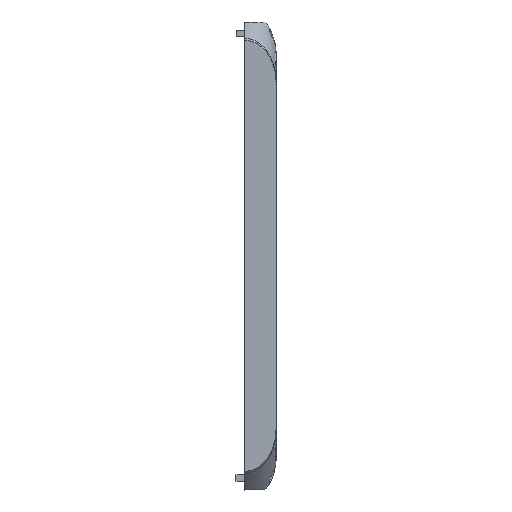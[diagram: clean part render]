
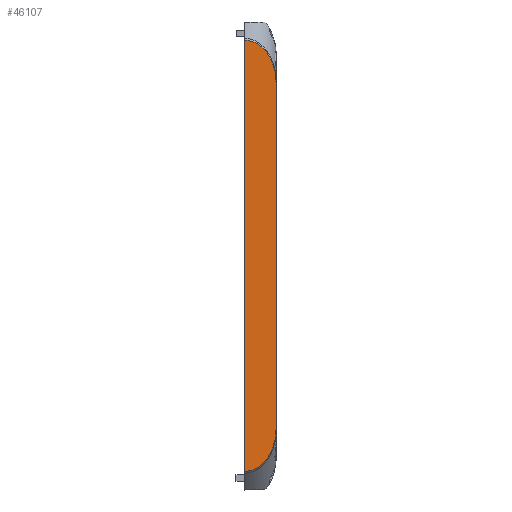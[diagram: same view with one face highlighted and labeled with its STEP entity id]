
A CAD part, top view. The second image highlights one B-rep face of the part: STEP entity #46107.
In plain terms, the highlighted planar face has unit normal (0, 0, 1).
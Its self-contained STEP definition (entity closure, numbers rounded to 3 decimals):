
#16699 = PLANE('',#16700);
#16700 = AXIS2_PLACEMENT_3D('',#16701,#16702,#16703);
#16701 = CARTESIAN_POINT('',(234.431,-103.71,3.136));
#16702 = DIRECTION('',(-1.,0.,0.));
#16703 = DIRECTION('',(0.,0.,1.));
#16881 = PLANE('',#16882);
#16882 = AXIS2_PLACEMENT_3D('',#16883,#16884,#16885);
#16883 = CARTESIAN_POINT('',(241.931,-155.71,26.754));
#16884 = DIRECTION('',(1.,0.,0.));
#16885 = DIRECTION('',(-0.,1.,0.));
#26565 = VERTEX_POINT('',#26566);
#26566 = CARTESIAN_POINT('',(241.931,-62.493,40.018));
#26580 = CYLINDRICAL_SURFACE('',#26581,7.5);
#26581 = AXIS2_PLACEMENT_3D('',#26582,#26583,#26584);
#26582 = CARTESIAN_POINT('',(234.431,-55.303,31.758)
  );
#26583 = DIRECTION('',(0.,0.657,-0.754));
#26584 = DIRECTION('',(0.707,0.533,0.464));
#26592 = EDGE_CURVE('',#26565,#26593,#26595,.T.);
#26593 = VERTEX_POINT('',#26594);
#26594 = CARTESIAN_POINT('',(241.931,-144.927,40.018));
#26595 = SURFACE_CURVE('',#26596,(#26600,#26607),.PCURVE_S1.);
#26596 = LINE('',#26597,#26598);
#26597 = CARTESIAN_POINT('',(241.931,-103.912,40.018));
#26598 = VECTOR('',#26599,1.);
#26599 = DIRECTION('',(0.,-1.,0.));
#26600 = PCURVE('',#16881,#26601);
#26601 = DEFINITIONAL_REPRESENTATION('',(#26602),#26606);
#26602 = LINE('',#26603,#26604);
#26603 = CARTESIAN_POINT('',(51.798,13.264));
#26604 = VECTOR('',#26605,1.);
#26605 = DIRECTION('',(-1.,0.));
#26606 = ( GEOMETRIC_REPRESENTATION_CONTEXT(2) 
PARAMETRIC_REPRESENTATION_CONTEXT() REPRESENTATION_CONTEXT('2D SPACE',''
  ) );
#26607 = PCURVE('',#26608,#26613);
#26608 = PLANE('',#26609);
#26609 = AXIS2_PLACEMENT_3D('',#26610,#26611,#26612);
#26610 = CARTESIAN_POINT('',(241.931,-52.115,40.018));
#26611 = DIRECTION('',(0.,0.,-1.));
#26612 = DIRECTION('',(0.,-1.,0.));
#26613 = DEFINITIONAL_REPRESENTATION('',(#26614),#26618);
#26614 = LINE('',#26615,#26616);
#26615 = CARTESIAN_POINT('',(51.798,0.));
#26616 = VECTOR('',#26617,1.);
#26617 = DIRECTION('',(1.,0.));
#26618 = ( GEOMETRIC_REPRESENTATION_CONTEXT(2) 
PARAMETRIC_REPRESENTATION_CONTEXT() REPRESENTATION_CONTEXT('2D SPACE',''
  ) );
#26636 = CYLINDRICAL_SURFACE('',#26637,7.5);
#26637 = AXIS2_PLACEMENT_3D('',#26638,#26639,#26640);
#26638 = CARTESIAN_POINT('',(234.431,-129.7,57.51)
  );
#26639 = DIRECTION('',(0.,0.657,0.754));
#26640 = DIRECTION('',(0.707,-0.533,0.464));
#38786 = VERTEX_POINT('',#38787);
#38787 = CARTESIAN_POINT('',(234.431,-52.55,40.018));
#38808 = EDGE_CURVE('',#38786,#26565,#38809,.T.);
#38809 = SURFACE_CURVE('',#38810,(#38815,#38844),.PCURVE_S1.);
#38810 = ELLIPSE('',#38811,9.944,7.5);
#38811 = AXIS2_PLACEMENT_3D('',#38812,#38813,#38814);
#38812 = CARTESIAN_POINT('',(234.431,-62.493,40.018));
#38813 = DIRECTION('',(0.,0.,-1.));
#38814 = DIRECTION('',(0.,1.,0.));
#38815 = PCURVE('',#26580,#38816);
#38816 = DEFINITIONAL_REPRESENTATION('',(#38817),#38843);
#38817 = B_SPLINE_CURVE_WITH_KNOTS('',3,(#38818,#38819,#38820,#38821,
    #38822,#38823,#38824,#38825,#38826,#38827,#38828,#38829,#38830,
    #38831,#38832,#38833,#38834,#38835,#38836,#38837,#38838,#38839,
    #38840,#38841,#38842),.UNSPECIFIED.,.F.,.F.,(4,1,1,1,1,1,1,1,1,1,1,1
    ,1,1,1,1,1,1,1,1,1,1,4),(0.,0.071,0.143,
    0.214,0.286,0.357,0.428,
    0.5,0.571,0.643,0.714,
    0.785,0.857,0.928,1.,
    1.071,1.142,1.214,1.285,
    1.357,1.428,1.499,1.571),
  .QUASI_UNIFORM_KNOTS.);
#38818 = CARTESIAN_POINT('',(5.498,-4.422));
#38819 = CARTESIAN_POINT('',(5.522,-4.422));
#38820 = CARTESIAN_POINT('',(5.569,-4.434));
#38821 = CARTESIAN_POINT('',(5.641,-4.483));
#38822 = CARTESIAN_POINT('',(5.712,-4.566));
#38823 = CARTESIAN_POINT('',(5.783,-4.682));
#38824 = CARTESIAN_POINT('',(5.855,-4.829));
#38825 = CARTESIAN_POINT('',(5.926,-5.007));
#38826 = CARTESIAN_POINT('',(5.998,-5.216));
#38827 = CARTESIAN_POINT('',(6.069,-5.454));
#38828 = CARTESIAN_POINT('',(6.14,-5.72));
#38829 = CARTESIAN_POINT('',(6.212,-6.013));
#38830 = CARTESIAN_POINT('',(6.283,-6.331));
#38831 = CARTESIAN_POINT('',(6.355,-6.672));
#38832 = CARTESIAN_POINT('',(6.426,-7.035));
#38833 = CARTESIAN_POINT('',(6.497,-7.418));
#38834 = CARTESIAN_POINT('',(6.569,-7.82));
#38835 = CARTESIAN_POINT('',(6.64,-8.237));
#38836 = CARTESIAN_POINT('',(6.712,-8.668));
#38837 = CARTESIAN_POINT('',(6.783,-9.11));
#38838 = CARTESIAN_POINT('',(6.854,-9.562));
#38839 = CARTESIAN_POINT('',(6.926,-10.021));
#38840 = CARTESIAN_POINT('',(6.997,-10.485));
#38841 = CARTESIAN_POINT('',(7.045,-10.796));
#38842 = CARTESIAN_POINT('',(7.069,-10.951));
#38843 = ( GEOMETRIC_REPRESENTATION_CONTEXT(2) 
PARAMETRIC_REPRESENTATION_CONTEXT() REPRESENTATION_CONTEXT('2D SPACE',''
  ) );
#38844 = PCURVE('',#26608,#38845);
#38845 = DEFINITIONAL_REPRESENTATION('',(#38846),#38850);
#38846 = ELLIPSE('',#38847,9.944,7.5);
#38847 = AXIS2_PLACEMENT_2D('',#38848,#38849);
#38848 = CARTESIAN_POINT('',(10.379,7.5));
#38849 = DIRECTION('',(-1.,0.));
#38850 = ( GEOMETRIC_REPRESENTATION_CONTEXT(2) 
PARAMETRIC_REPRESENTATION_CONTEXT() REPRESENTATION_CONTEXT('2D SPACE',''
  ) );
#41608 = VERTEX_POINT('',#41609);
#41609 = CARTESIAN_POINT('',(234.431,-154.87,40.018));
#41630 = EDGE_CURVE('',#41608,#38786,#41631,.T.);
#41631 = SURFACE_CURVE('',#41632,(#41636,#41643),.PCURVE_S1.);
#41632 = LINE('',#41633,#41634);
#41633 = CARTESIAN_POINT('',(234.431,-77.912,40.018));
#41634 = VECTOR('',#41635,1.);
#41635 = DIRECTION('',(0.,1.,0.));
#41636 = PCURVE('',#16699,#41637);
#41637 = DEFINITIONAL_REPRESENTATION('',(#41638),#41642);
#41638 = LINE('',#41639,#41640);
#41639 = CARTESIAN_POINT('',(36.882,25.798));
#41640 = VECTOR('',#41641,1.);
#41641 = DIRECTION('',(0.,1.));
#41642 = ( GEOMETRIC_REPRESENTATION_CONTEXT(2) 
PARAMETRIC_REPRESENTATION_CONTEXT() REPRESENTATION_CONTEXT('2D SPACE',''
  ) );
#41643 = PCURVE('',#26608,#41644);
#41644 = DEFINITIONAL_REPRESENTATION('',(#41645),#41649);
#41645 = LINE('',#41646,#41647);
#41646 = CARTESIAN_POINT('',(25.798,7.5));
#41647 = VECTOR('',#41648,1.);
#41648 = DIRECTION('',(-1.,0.));
#41649 = ( GEOMETRIC_REPRESENTATION_CONTEXT(2) 
PARAMETRIC_REPRESENTATION_CONTEXT() REPRESENTATION_CONTEXT('2D SPACE',''
  ) );
#43259 = EDGE_CURVE('',#26593,#41608,#43260,.T.);
#43260 = SURFACE_CURVE('',#43261,(#43266,#43295),.PCURVE_S1.);
#43261 = ELLIPSE('',#43262,9.944,7.5);
#43262 = AXIS2_PLACEMENT_3D('',#43263,#43264,#43265);
#43263 = CARTESIAN_POINT('',(234.431,-144.927,40.018));
#43264 = DIRECTION('',(0.,0.,-1.));
#43265 = DIRECTION('',(0.,-1.,0.));
#43266 = PCURVE('',#26636,#43267);
#43267 = DEFINITIONAL_REPRESENTATION('',(#43268),#43294);
#43268 = B_SPLINE_CURVE_WITH_KNOTS('',3,(#43269,#43270,#43271,#43272,
    #43273,#43274,#43275,#43276,#43277,#43278,#43279,#43280,#43281,
    #43282,#43283,#43284,#43285,#43286,#43287,#43288,#43289,#43290,
    #43291,#43292,#43293),.UNSPECIFIED.,.F.,.F.,(4,1,1,1,1,1,1,1,1,1,1,1
    ,1,1,1,1,1,1,1,1,1,1,4),(4.712,4.784,
    4.855,4.927,4.998,5.069,
    5.141,5.212,5.284,5.355,
    5.426,5.498,5.569,5.641,
    5.712,5.783,5.855,5.926,
    5.998,6.069,6.14,6.212,
    6.283),.QUASI_UNIFORM_KNOTS.);
#43269 = CARTESIAN_POINT('',(0.785,-23.191));
#43270 = CARTESIAN_POINT('',(0.762,-23.346));
#43271 = CARTESIAN_POINT('',(0.714,-23.657));
#43272 = CARTESIAN_POINT('',(0.643,-24.121));
#43273 = CARTESIAN_POINT('',(0.571,-24.58));
#43274 = CARTESIAN_POINT('',(0.5,-25.032));
#43275 = CARTESIAN_POINT('',(0.428,-25.475));
#43276 = CARTESIAN_POINT('',(0.357,-25.905));
#43277 = CARTESIAN_POINT('',(0.286,-26.323));
#43278 = CARTESIAN_POINT('',(0.214,-26.724));
#43279 = CARTESIAN_POINT('',(0.143,-27.107));
#43280 = CARTESIAN_POINT('',(0.071,-27.47));
#43281 = CARTESIAN_POINT('',(0.,-27.811));
#43282 = CARTESIAN_POINT('',(-0.071,-28.129));
#43283 = CARTESIAN_POINT('',(-0.143,-28.422));
#43284 = CARTESIAN_POINT('',(-0.214,-28.688));
#43285 = CARTESIAN_POINT('',(-0.286,-28.926));
#43286 = CARTESIAN_POINT('',(-0.357,-29.135));
#43287 = CARTESIAN_POINT('',(-0.428,-29.313));
#43288 = CARTESIAN_POINT('',(-0.5,-29.461));
#43289 = CARTESIAN_POINT('',(-0.571,-29.576));
#43290 = CARTESIAN_POINT('',(-0.643,-29.659));
#43291 = CARTESIAN_POINT('',(-0.714,-29.709));
#43292 = CARTESIAN_POINT('',(-0.762,-29.72));
#43293 = CARTESIAN_POINT('',(-0.785,-29.72));
#43294 = ( GEOMETRIC_REPRESENTATION_CONTEXT(2) 
PARAMETRIC_REPRESENTATION_CONTEXT() REPRESENTATION_CONTEXT('2D SPACE',''
  ) );
#43295 = PCURVE('',#26608,#43296);
#43296 = DEFINITIONAL_REPRESENTATION('',(#43297),#43301);
#43297 = ELLIPSE('',#43298,9.944,7.5);
#43298 = AXIS2_PLACEMENT_2D('',#43299,#43300);
#43299 = CARTESIAN_POINT('',(92.812,7.5));
#43300 = DIRECTION('',(1.,0.));
#43301 = ( GEOMETRIC_REPRESENTATION_CONTEXT(2) 
PARAMETRIC_REPRESENTATION_CONTEXT() REPRESENTATION_CONTEXT('2D SPACE',''
  ) );
#46107 = ADVANCED_FACE('',(#46108),#26608,.F.);
#46108 = FACE_BOUND('',#46109,.T.);
#46109 = EDGE_LOOP('',(#46110,#46111,#46112,#46113));
#46110 = ORIENTED_EDGE('',*,*,#41630,.F.);
#46111 = ORIENTED_EDGE('',*,*,#43259,.F.);
#46112 = ORIENTED_EDGE('',*,*,#26592,.F.);
#46113 = ORIENTED_EDGE('',*,*,#38808,.F.);
